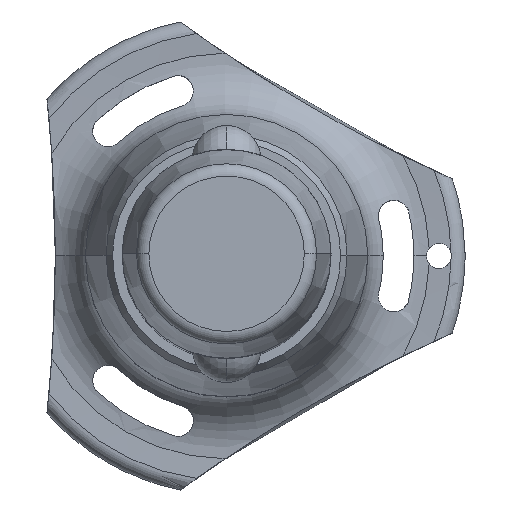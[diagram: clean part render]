
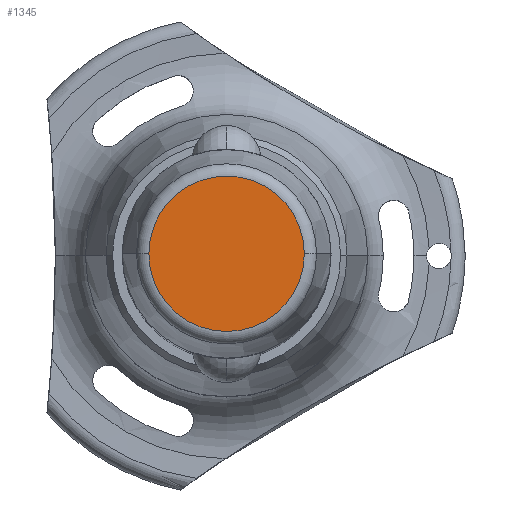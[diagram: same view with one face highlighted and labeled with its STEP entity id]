
A CAD part, top view. The second image highlights one B-rep face of the part: STEP entity #1345.
In plain terms, the highlighted planar face has unit normal (0, 0, 1).
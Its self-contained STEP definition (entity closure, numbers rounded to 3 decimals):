
#74 = AXIS2_PLACEMENT_3D ( 'NONE', #977, #2788, #1405 ) ;
#162 = EDGE_CURVE ( 'NONE', #623, #2478, #1203, .T. ) ;
#623 = VERTEX_POINT ( 'NONE', #2837 ) ;
#857 = CARTESIAN_POINT ( 'NONE',  ( -9.302, 0., 22. ) ) ;
#873 = CARTESIAN_POINT ( 'NONE',  ( 0., 0., 22. ) ) ;
#977 = CARTESIAN_POINT ( 'NONE',  ( 0., 0., 22. ) ) ;
#1077 = FACE_OUTER_BOUND ( 'NONE', #2198, .T. ) ;
#1203 = CIRCLE ( 'NONE', #2868, 9.302 ) ;
#1345 = ADVANCED_FACE ( 'NONE', ( #1077 ), #2012, .T. ) ;
#1405 = DIRECTION ( 'NONE',  ( 1., 0., 0. ) ) ;
#1563 = DIRECTION ( 'NONE',  ( 0., 0., 1. ) ) ;
#1726 = EDGE_CURVE ( 'NONE', #2478, #623, #2490, .T. ) ;
#1833 = CARTESIAN_POINT ( 'NONE',  ( 0., 0., 22. ) ) ;
#1874 = DIRECTION ( 'NONE',  ( 1., 0., 0. ) ) ;
#2012 = PLANE ( 'NONE',  #2211 ) ;
#2097 = DIRECTION ( 'NONE',  ( 1., 0., 0. ) ) ;
#2120 = ORIENTED_EDGE ( 'NONE', *, *, #1726, .T. ) ;
#2198 = EDGE_LOOP ( 'NONE', ( #2751, #2120 ) ) ;
#2211 = AXIS2_PLACEMENT_3D ( 'NONE', #873, #1563, #1874 ) ;
#2478 = VERTEX_POINT ( 'NONE', #857 ) ;
#2490 = CIRCLE ( 'NONE', #74, 9.302 ) ;
#2501 = DIRECTION ( 'NONE',  ( 0., 0., 1. ) ) ;
#2751 = ORIENTED_EDGE ( 'NONE', *, *, #162, .T. ) ;
#2788 = DIRECTION ( 'NONE',  ( 0., 0., 1. ) ) ;
#2837 = CARTESIAN_POINT ( 'NONE',  ( 9.302, 0., 22. ) ) ;
#2868 = AXIS2_PLACEMENT_3D ( 'NONE', #1833, #2501, #2097 ) ;
